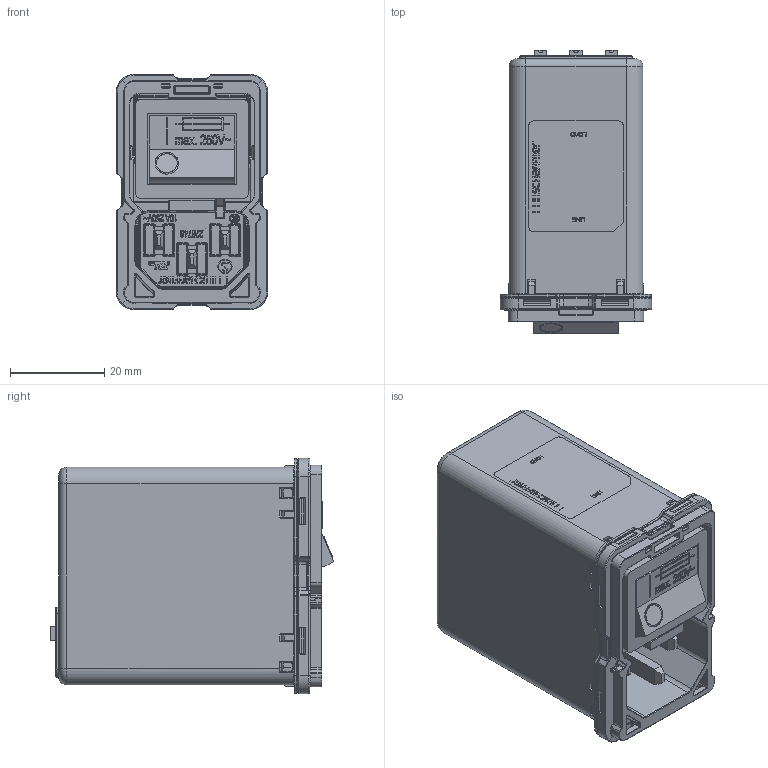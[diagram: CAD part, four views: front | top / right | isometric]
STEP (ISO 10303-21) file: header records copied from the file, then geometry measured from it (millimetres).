
FILE_DESCRIPTION(/* description */ ('raw material description','CAx-IF Rec.Pracs.---Representation and Presentation of Product Manufacturing Information (PMI)---3.8---2014-02-18'),/* implementation_level */ '2;1');
FILE_NAME(/* name */ 'C:\Users\Oliver.Volic\Desktop\FN9280-1-100.stp',/* time_stamp */ '2020-08-14T08:51:35+02:00',/* author */ ('Oliver.Volic'),/* organization */ ('Schaffner EMV AG'),/* preprocessor_version */ 'ST-DEVELOPER v16.5',/* originating_system */ 'Autodesk Inventor 2017',/* authorisation */ '');
FILE_SCHEMA (('AP242_MANAGED_MODEL_BASED_3D_ENGINEERING_MIM_LF { 1 0 10303 442 1 1 4 }'));
Products named in the file (1): FN9280-1-100
Bounding box: 32.1 x 60.16 x 49.9 mm (x, y, z)
Surface area: 49002 mm2
Topology: 6 solids, 7 shells, 5279 faces, 14278 edges, 8997 vertices
Faces by surface type: plane 3109, cylinder 1247, bspline 646, torus 111, sphere 111, cone 55
Full cylindrical faces by diameter (mm): 0.272 x1, 0.305 x1, 1.2 x4, 2.7 x1, 2.712 x1, 3.013 x1, 3.3 x1, 3.6 x1, 4 x1, 6.5 x1, 7.2 x1, 8.2 x1
Entity records: 183613 total; most frequent: CARTESIAN_POINT 47511, ORIENTED_EDGE 28324, DIRECTION 25917, EDGE_CURVE 14157, LINE 10079, VECTOR 10079, VERTEX_POINT 8992, AXIS2_PLACEMENT_3D 7919
